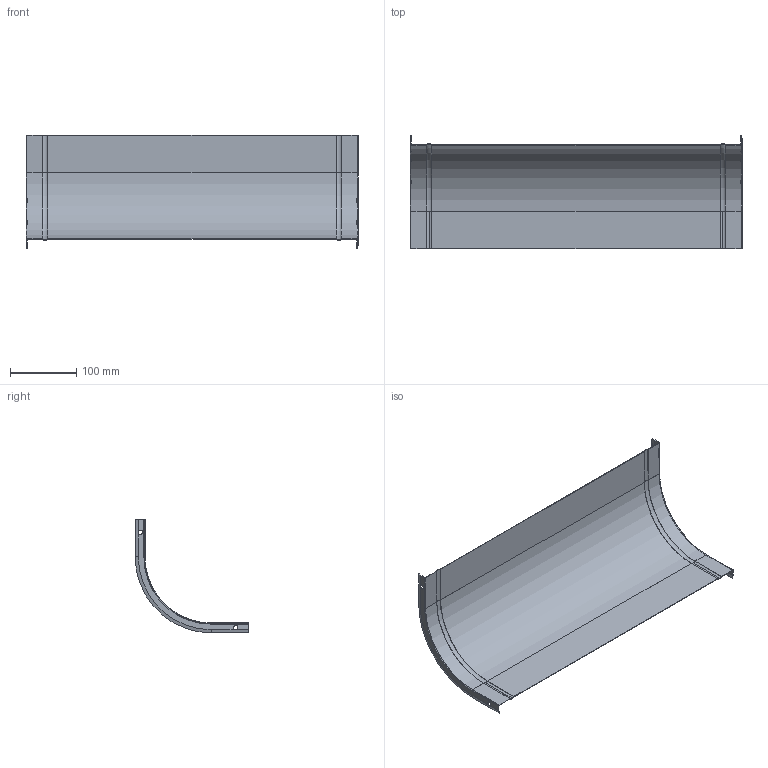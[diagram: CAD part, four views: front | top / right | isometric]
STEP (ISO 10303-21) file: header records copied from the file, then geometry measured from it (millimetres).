
FILE_DESCRIPTION (( 'STEP AP203' ), '1' );
FILE_NAME ('ERE_TAPA CCERC 500.step', '2023-07-28T14:53:53', ( '' ), ( '' ), 'SwSTEP 2.0', 'SolidWorks 2022', '' );
FILE_SCHEMA (( 'CONFIG_CONTROL_DESIGN' ));
Length unit declared in the file: millimetre
Products named in the file (1): ERE_TAPA CCERC 500
Bounding box: 502 x 172 x 172 mm (x, y, z)
Volume: 115669.9 mm3; surface area: 290291.9 mm2
Topology: 1 solids, 1 shells, 78 faces, 220 edges, 136 vertices
Faces by surface type: cylinder 36, plane 30, torus 8, cone 4
Entity records: 2605 total; most frequent: CARTESIAN_POINT 471, DIRECTION 450, ORIENTED_EDGE 440, EDGE_CURVE 220, AXIS2_PLACEMENT_3D 163, VERTEX_POINT 136, LINE 124, VECTOR 124
